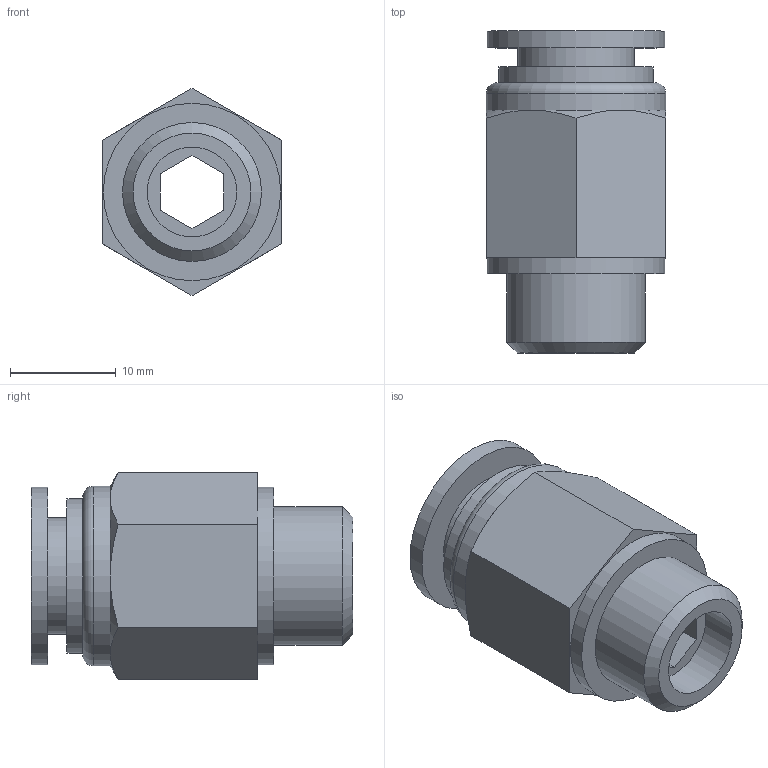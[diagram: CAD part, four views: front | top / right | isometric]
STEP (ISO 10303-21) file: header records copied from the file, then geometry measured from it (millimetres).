
FILE_DESCRIPTION(/* description */ (''),/* implementation_level */ '2;1');
FILE_NAME(/* name */ 'S:\UTecnico\ArchivioUT\Speciali Clienti\Speciali KONFIT\DISEGNI 3D\RP\RP 51\RP511410.stp',/* time_stamp */ '2013-07-02T09:59:13+02:00',/* author */ ('UT5'),/* organization */ (''),/* preprocessor_version */ 'ST-DEVELOPER v15.2',/* originating_system */ 'Autodesk Inventor 2014',/* authorisation */ '');
FILE_SCHEMA (('AUTOMOTIVE_DESIGN { 1 0 10303 214 3 1 1 }'));
Length unit declared in the file: millimetre
Products named in the file (1): RP511410
Bounding box: 17 x 30.5 x 19.63 mm (x, y, z)
Volume: 4365.1 mm3; surface area: 3028.9 mm2
Topology: 1 solids, 1 shells, 37 faces, 76 edges, 48 vertices
Faces by surface type: plane 21, cylinder 8, cone 7, torus 1
Full cylindrical faces by diameter (mm): 8.5 x1, 10 x1, 11 x1, 13.157 x1, 14.6 x1, 16.8 x2, 17 x1
Entity records: 944 total; most frequent: CARTESIAN_POINT 174, DIRECTION 152, ORIENTED_EDGE 130, EDGE_CURVE 65, AXIS2_PLACEMENT_3D 61, EDGE_LOOP 56, VERTEX_POINT 47, ADVANCED_FACE 37
